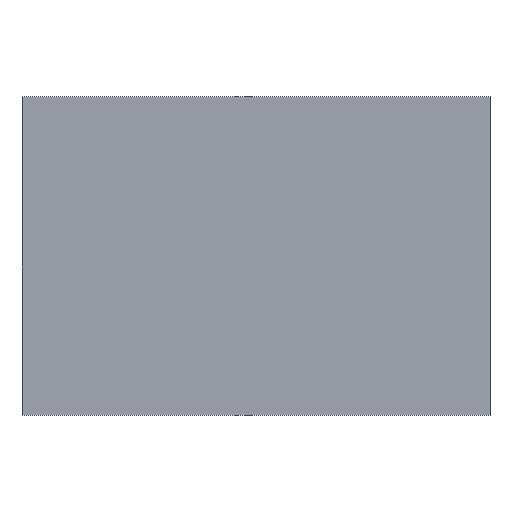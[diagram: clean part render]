
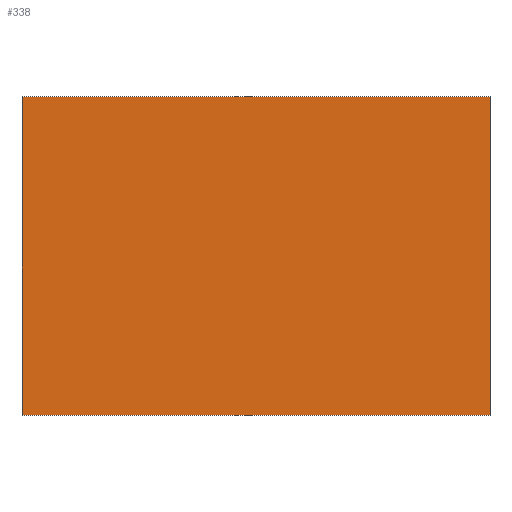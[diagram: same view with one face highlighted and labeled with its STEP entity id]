
A CAD part, top view. The second image highlights one B-rep face of the part: STEP entity #338.
In plain terms, the highlighted planar face has unit normal (0, 0, 1).
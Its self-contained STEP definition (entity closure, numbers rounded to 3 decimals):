
#24 = VERTEX_POINT('',#25);
#25 = CARTESIAN_POINT('',(-25.5,-17.339,0.5));
#32 = PLANE('',#33);
#33 = AXIS2_PLACEMENT_3D('',#34,#35,#36);
#34 = CARTESIAN_POINT('',(-25.5,-17.339,-0.5));
#35 = DIRECTION('',(1.,0.,0.));
#36 = DIRECTION('',(0.,0.,1.));
#44 = PLANE('',#45);
#45 = AXIS2_PLACEMENT_3D('',#46,#47,#48);
#46 = CARTESIAN_POINT('',(-25.5,-17.339,-0.5));
#47 = DIRECTION('',(0.,1.,0.));
#48 = DIRECTION('',(0.,0.,1.));
#85 = VERTEX_POINT('',#86);
#86 = CARTESIAN_POINT('',(-25.5,17.339,0.5));
#100 = PLANE('',#101);
#101 = AXIS2_PLACEMENT_3D('',#102,#103,#104);
#102 = CARTESIAN_POINT('',(-25.5,17.339,-0.5));
#103 = DIRECTION('',(0.,1.,0.));
#104 = DIRECTION('',(0.,0.,1.));
#112 = EDGE_CURVE('',#24,#85,#113,.T.);
#113 = SURFACE_CURVE('',#114,(#118,#125),.PCURVE_S1.);
#114 = LINE('',#115,#116);
#115 = CARTESIAN_POINT('',(-25.5,-17.339,0.5));
#116 = VECTOR('',#117,1.);
#117 = DIRECTION('',(0.,1.,0.));
#118 = PCURVE('',#32,#119);
#119 = DEFINITIONAL_REPRESENTATION('',(#120),#124);
#120 = LINE('',#121,#122);
#121 = CARTESIAN_POINT('',(1.,0.));
#122 = VECTOR('',#123,1.);
#123 = DIRECTION('',(0.,-1.));
#124 = ( GEOMETRIC_REPRESENTATION_CONTEXT(2) 
PARAMETRIC_REPRESENTATION_CONTEXT() REPRESENTATION_CONTEXT('2D SPACE',''
  ) );
#125 = PCURVE('',#126,#131);
#126 = PLANE('',#127);
#127 = AXIS2_PLACEMENT_3D('',#128,#129,#130);
#128 = CARTESIAN_POINT('',(-25.5,-17.339,0.5));
#129 = DIRECTION('',(0.,0.,1.));
#130 = DIRECTION('',(1.,0.,0.));
#131 = DEFINITIONAL_REPRESENTATION('',(#132),#136);
#132 = LINE('',#133,#134);
#133 = CARTESIAN_POINT('',(0.,0.));
#134 = VECTOR('',#135,1.);
#135 = DIRECTION('',(0.,1.));
#136 = ( GEOMETRIC_REPRESENTATION_CONTEXT(2) 
PARAMETRIC_REPRESENTATION_CONTEXT() REPRESENTATION_CONTEXT('2D SPACE',''
  ) );
#144 = VERTEX_POINT('',#145);
#145 = CARTESIAN_POINT('',(25.5,-17.339,0.5));
#152 = PLANE('',#153);
#153 = AXIS2_PLACEMENT_3D('',#154,#155,#156);
#154 = CARTESIAN_POINT('',(25.5,-17.339,-0.5));
#155 = DIRECTION('',(1.,0.,0.));
#156 = DIRECTION('',(0.,0.,1.));
#195 = VERTEX_POINT('',#196);
#196 = CARTESIAN_POINT('',(25.5,17.339,0.5));
#217 = EDGE_CURVE('',#144,#195,#218,.T.);
#218 = SURFACE_CURVE('',#219,(#223,#230),.PCURVE_S1.);
#219 = LINE('',#220,#221);
#220 = CARTESIAN_POINT('',(25.5,-17.339,0.5));
#221 = VECTOR('',#222,1.);
#222 = DIRECTION('',(0.,1.,0.));
#223 = PCURVE('',#152,#224);
#224 = DEFINITIONAL_REPRESENTATION('',(#225),#229);
#225 = LINE('',#226,#227);
#226 = CARTESIAN_POINT('',(1.,0.));
#227 = VECTOR('',#228,1.);
#228 = DIRECTION('',(0.,-1.));
#229 = ( GEOMETRIC_REPRESENTATION_CONTEXT(2) 
PARAMETRIC_REPRESENTATION_CONTEXT() REPRESENTATION_CONTEXT('2D SPACE',''
  ) );
#230 = PCURVE('',#126,#231);
#231 = DEFINITIONAL_REPRESENTATION('',(#232),#236);
#232 = LINE('',#233,#234);
#233 = CARTESIAN_POINT('',(51.,0.));
#234 = VECTOR('',#235,1.);
#235 = DIRECTION('',(0.,1.));
#236 = ( GEOMETRIC_REPRESENTATION_CONTEXT(2) 
PARAMETRIC_REPRESENTATION_CONTEXT() REPRESENTATION_CONTEXT('2D SPACE',''
  ) );
#263 = EDGE_CURVE('',#24,#144,#264,.T.);
#264 = SURFACE_CURVE('',#265,(#269,#276),.PCURVE_S1.);
#265 = LINE('',#266,#267);
#266 = CARTESIAN_POINT('',(-25.5,-17.339,0.5));
#267 = VECTOR('',#268,1.);
#268 = DIRECTION('',(1.,0.,0.));
#269 = PCURVE('',#44,#270);
#270 = DEFINITIONAL_REPRESENTATION('',(#271),#275);
#271 = LINE('',#272,#273);
#272 = CARTESIAN_POINT('',(1.,0.));
#273 = VECTOR('',#274,1.);
#274 = DIRECTION('',(0.,1.));
#275 = ( GEOMETRIC_REPRESENTATION_CONTEXT(2) 
PARAMETRIC_REPRESENTATION_CONTEXT() REPRESENTATION_CONTEXT('2D SPACE',''
  ) );
#276 = PCURVE('',#126,#277);
#277 = DEFINITIONAL_REPRESENTATION('',(#278),#282);
#278 = LINE('',#279,#280);
#279 = CARTESIAN_POINT('',(0.,0.));
#280 = VECTOR('',#281,1.);
#281 = DIRECTION('',(1.,0.));
#282 = ( GEOMETRIC_REPRESENTATION_CONTEXT(2) 
PARAMETRIC_REPRESENTATION_CONTEXT() REPRESENTATION_CONTEXT('2D SPACE',''
  ) );
#310 = EDGE_CURVE('',#85,#195,#311,.T.);
#311 = SURFACE_CURVE('',#312,(#316,#323),.PCURVE_S1.);
#312 = LINE('',#313,#314);
#313 = CARTESIAN_POINT('',(-25.5,17.339,0.5));
#314 = VECTOR('',#315,1.);
#315 = DIRECTION('',(1.,0.,0.));
#316 = PCURVE('',#100,#317);
#317 = DEFINITIONAL_REPRESENTATION('',(#318),#322);
#318 = LINE('',#319,#320);
#319 = CARTESIAN_POINT('',(1.,0.));
#320 = VECTOR('',#321,1.);
#321 = DIRECTION('',(0.,1.));
#322 = ( GEOMETRIC_REPRESENTATION_CONTEXT(2) 
PARAMETRIC_REPRESENTATION_CONTEXT() REPRESENTATION_CONTEXT('2D SPACE',''
  ) );
#323 = PCURVE('',#126,#324);
#324 = DEFINITIONAL_REPRESENTATION('',(#325),#329);
#325 = LINE('',#326,#327);
#326 = CARTESIAN_POINT('',(0.,34.679));
#327 = VECTOR('',#328,1.);
#328 = DIRECTION('',(1.,0.));
#329 = ( GEOMETRIC_REPRESENTATION_CONTEXT(2) 
PARAMETRIC_REPRESENTATION_CONTEXT() REPRESENTATION_CONTEXT('2D SPACE',''
  ) );
#338 = ADVANCED_FACE('',(#339),#126,.T.);
#339 = FACE_BOUND('',#340,.T.);
#340 = EDGE_LOOP('',(#341,#342,#343,#344));
#341 = ORIENTED_EDGE('',*,*,#112,.F.);
#342 = ORIENTED_EDGE('',*,*,#263,.T.);
#343 = ORIENTED_EDGE('',*,*,#217,.T.);
#344 = ORIENTED_EDGE('',*,*,#310,.F.);
